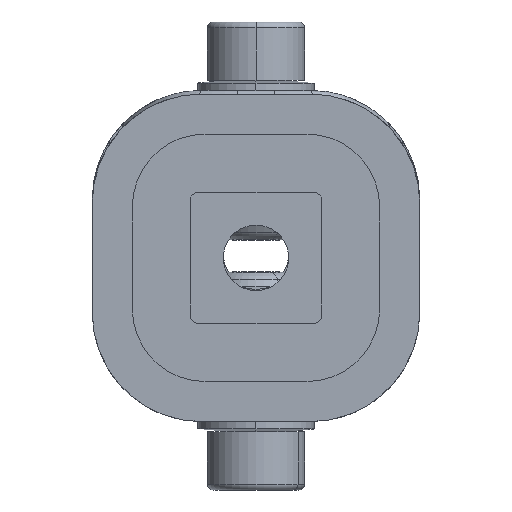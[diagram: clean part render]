
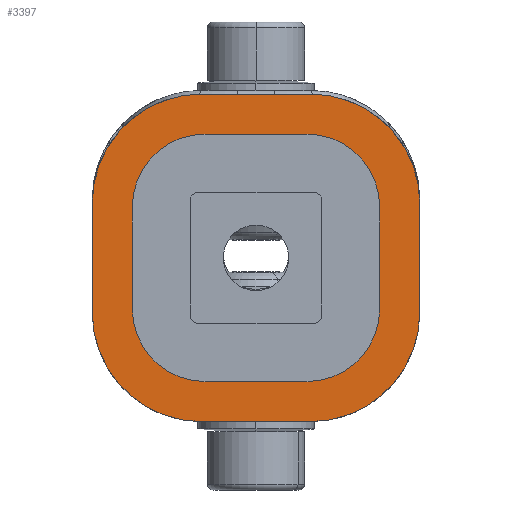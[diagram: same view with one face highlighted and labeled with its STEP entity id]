
A CAD part, front view. The second image highlights one B-rep face of the part: STEP entity #3397.
In plain terms, the highlighted planar face has unit normal (0, -1, 0) as drawn and (0, 0, -1) by its records, which use the part's own axes.
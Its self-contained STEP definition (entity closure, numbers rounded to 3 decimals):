
#681 = EDGE_CURVE ( 'NONE', #2337, #2221, #2602, .T. ) ;
#708 = EDGE_CURVE ( 'NONE', #4107, #4106, #2643, .T. ) ;
#709 = EDGE_CURVE ( 'NONE', #4107, #4055, #2637, .T. ) ;
#710 = EDGE_CURVE ( 'NONE', #4113, #4055, #2645, .T. ) ;
#711 = EDGE_CURVE ( 'NONE', #4113, #4057, #2647, .T. ) ;
#712 = EDGE_CURVE ( 'NONE', #4112, #4057, #2650, .T. ) ;
#713 = EDGE_CURVE ( 'NONE', #4112, #4059, #2648, .T. ) ;
#714 = EDGE_CURVE ( 'NONE', #4056, #4059, #2653, .T. ) ;
#715 = EDGE_CURVE ( 'NONE', #4056, #4106, #2651, .T. ) ;
#716 = EDGE_CURVE ( 'NONE', #2221, #4061, #2656, .T. ) ;
#717 = EDGE_CURVE ( 'NONE', #4060, #2337, #2657, .T. ) ;
#718 = EDGE_CURVE ( 'NONE', #4062, #4060, #2654, .T. ) ;
#719 = EDGE_CURVE ( 'NONE', #4058, #4062, #2658, .T. ) ;
#720 = EDGE_CURVE ( 'NONE', #4093, #4058, #2659, .T. ) ;
#721 = EDGE_CURVE ( 'NONE', #4094, #4093, #2661, .T. ) ;
#722 = EDGE_CURVE ( 'NONE', #4061, #4094, #2664, .T. ) ;
#813 = AXIS2_PLACEMENT_3D ( 'NONE', #3490, #3489, #3485 ) ;
#814 = AXIS2_PLACEMENT_3D ( 'NONE', #3303, #3227, #3300 ) ;
#815 = AXIS2_PLACEMENT_3D ( 'NONE', #3316, #3311, #3301 ) ;
#816 = AXIS2_PLACEMENT_3D ( 'NONE', #3302, #3143, #3146 ) ;
#817 = AXIS2_PLACEMENT_3D ( 'NONE', #3298, #3144, #3297 ) ;
#818 = AXIS2_PLACEMENT_3D ( 'NONE', #3153, #3149, #3151 ) ;
#819 = AXIS2_PLACEMENT_3D ( 'NONE', #3158, #3159, #3160 ) ;
#820 = AXIS2_PLACEMENT_3D ( 'NONE', #3147, #3204, #3286 ) ;
#879 = AXIS2_PLACEMENT_3D ( 'NONE', #1702, #1715, #1719 ) ;
#1702 = CARTESIAN_POINT ( 'NONE',  ( -7.5, 7.5, 0. ) ) ;
#1705 = PLANE ( 'NONE',  #879 ) ;
#1715 = DIRECTION ( 'NONE',  ( 0., 0., 1. ) ) ;
#1719 = DIRECTION ( 'NONE',  ( 1., 0., 0. ) ) ;
#1910 = CARTESIAN_POINT ( 'NONE',  ( 7.5, 22.5, 0. ) ) ;
#2018 = EDGE_LOOP ( 'NONE', ( #3772, #3811, #4022, #4023, #4024, #4025, #3989, #3990 ) ) ;
#2074 = EDGE_LOOP ( 'NONE', ( #4042, #3951, #4040, #3954, #3953, #3765, #3955, #3937 ) ) ;
#2221 = VERTEX_POINT ( 'NONE', #3192 ) ;
#2337 = VERTEX_POINT ( 'NONE', #1910 ) ;
#2602 = LINE ( 'NONE', #3482, #2605 ) ;
#2605 = VECTOR ( 'NONE', #3495, 1000. ) ;
#2637 = CIRCLE ( 'NONE', #813, 10. ) ;
#2643 = LINE ( 'NONE', #3509, #2646 ) ;
#2645 = LINE ( 'NONE', #3491, #2649 ) ;
#2646 = VECTOR ( 'NONE', #3500, 1000. ) ;
#2647 = CIRCLE ( 'NONE', #814, 10. ) ;
#2648 = CIRCLE ( 'NONE', #815, 10. ) ;
#2649 = VECTOR ( 'NONE', #3503, 1000. ) ;
#2650 = LINE ( 'NONE', #3483, #2652 ) ;
#2651 = CIRCLE ( 'NONE', #816, 10. ) ;
#2652 = VECTOR ( 'NONE', #3496, 1000. ) ;
#2653 = LINE ( 'NONE', #3314, #2655 ) ;
#2654 = LINE ( 'NONE', #3299, #2660 ) ;
#2655 = VECTOR ( 'NONE', #3218, 1000. ) ;
#2656 = CIRCLE ( 'NONE', #817, 15. ) ;
#2657 = CIRCLE ( 'NONE', #818, 15. ) ;
#2658 = CIRCLE ( 'NONE', #819, 15. ) ;
#2659 = LINE ( 'NONE', #3142, #2663 ) ;
#2660 = VECTOR ( 'NONE', #3145, 1000. ) ;
#2661 = CIRCLE ( 'NONE', #820, 15. ) ;
#2663 = VECTOR ( 'NONE', #3148, 1000. ) ;
#2664 = LINE ( 'NONE', #3141, #2666 ) ;
#2666 = VECTOR ( 'NONE', #3296, 1000. ) ;
#2790 = FACE_BOUND ( 'NONE', #2074, .T. ) ;
#2802 = FACE_OUTER_BOUND ( 'NONE', #2018, .T. ) ;
#3141 = CARTESIAN_POINT ( 'NONE',  ( -22.5, 7.5, 0. ) ) ;
#3142 = CARTESIAN_POINT ( 'NONE',  ( 7.5, -22.5, 0. ) ) ;
#3143 = DIRECTION ( 'NONE',  ( 0., 0., 1. ) ) ;
#3144 = DIRECTION ( 'NONE',  ( 0., 0., 1. ) ) ;
#3145 = DIRECTION ( 'NONE',  ( 0., 1., 0. ) ) ;
#3146 = DIRECTION ( 'NONE',  ( 1., 0., 0. ) ) ;
#3147 = CARTESIAN_POINT ( 'NONE',  ( -7.5, -7.5, 0. ) ) ;
#3148 = DIRECTION ( 'NONE',  ( 1., 0., 0. ) ) ;
#3149 = DIRECTION ( 'NONE',  ( 0., 0., 1. ) ) ;
#3151 = DIRECTION ( 'NONE',  ( -1., 0., 0. ) ) ;
#3153 = CARTESIAN_POINT ( 'NONE',  ( 7.5, 7.5, 0. ) ) ;
#3158 = CARTESIAN_POINT ( 'NONE',  ( 7.5, -7.5, 0. ) ) ;
#3159 = DIRECTION ( 'NONE',  ( 0., 0., 1. ) ) ;
#3160 = DIRECTION ( 'NONE',  ( -1., 0., 0. ) ) ;
#3192 = CARTESIAN_POINT ( 'NONE',  ( -7.5, 22.5, 0. ) ) ;
#3204 = DIRECTION ( 'NONE',  ( 0., 0., 1. ) ) ;
#3218 = DIRECTION ( 'NONE',  ( 0., -1., 0. ) ) ;
#3227 = DIRECTION ( 'NONE',  ( 0., 0., 1. ) ) ;
#3286 = DIRECTION ( 'NONE',  ( -1., 0., 0. ) ) ;
#3296 = DIRECTION ( 'NONE',  ( 0., -1., 0. ) ) ;
#3297 = DIRECTION ( 'NONE',  ( 1., 0., 0. ) ) ;
#3298 = CARTESIAN_POINT ( 'NONE',  ( -7.5, 7.5, 0. ) ) ;
#3299 = CARTESIAN_POINT ( 'NONE',  ( 22.5, 7.5, 0. ) ) ;
#3300 = DIRECTION ( 'NONE',  ( 1., 0., 0. ) ) ;
#3301 = DIRECTION ( 'NONE',  ( 1., 0., 0. ) ) ;
#3302 = CARTESIAN_POINT ( 'NONE',  ( 7., 7., 0. ) ) ;
#3303 = CARTESIAN_POINT ( 'NONE',  ( -7., -7., 0. ) ) ;
#3311 = DIRECTION ( 'NONE',  ( 0., 0., 1. ) ) ;
#3314 = CARTESIAN_POINT ( 'NONE',  ( 17., 17., 0. ) ) ;
#3316 = CARTESIAN_POINT ( 'NONE',  ( 7., -7., 0. ) ) ;
#3397 = ADVANCED_FACE ( 'NONE', ( #2790, #2802 ), #1705, .F. ) ;
#3482 = CARTESIAN_POINT ( 'NONE',  ( 7.5, 22.5, 0. ) ) ;
#3483 = CARTESIAN_POINT ( 'NONE',  ( 17., -17., 0. ) ) ;
#3485 = DIRECTION ( 'NONE',  ( 1., 0., 0. ) ) ;
#3489 = DIRECTION ( 'NONE',  ( 0., 0., 1. ) ) ;
#3490 = CARTESIAN_POINT ( 'NONE',  ( -7., 7., 0. ) ) ;
#3491 = CARTESIAN_POINT ( 'NONE',  ( -17., 17., 0. ) ) ;
#3495 = DIRECTION ( 'NONE',  ( -1., 0., 0. ) ) ;
#3496 = DIRECTION ( 'NONE',  ( -1., 0., 0. ) ) ;
#3500 = DIRECTION ( 'NONE',  ( 1., 0., 0. ) ) ;
#3503 = DIRECTION ( 'NONE',  ( 0., 1., 0. ) ) ;
#3509 = CARTESIAN_POINT ( 'NONE',  ( 17., 17., 0. ) ) ;
#3765 = ORIENTED_EDGE ( 'NONE', *, *, #713, .T. ) ;
#3772 = ORIENTED_EDGE ( 'NONE', *, *, #716, .F. ) ;
#3811 = ORIENTED_EDGE ( 'NONE', *, *, #681, .F. ) ;
#3937 = ORIENTED_EDGE ( 'NONE', *, *, #715, .T. ) ;
#3951 = ORIENTED_EDGE ( 'NONE', *, *, #709, .T. ) ;
#3953 = ORIENTED_EDGE ( 'NONE', *, *, #712, .F. ) ;
#3954 = ORIENTED_EDGE ( 'NONE', *, *, #711, .T. ) ;
#3955 = ORIENTED_EDGE ( 'NONE', *, *, #714, .F. ) ;
#3989 = ORIENTED_EDGE ( 'NONE', *, *, #721, .F. ) ;
#3990 = ORIENTED_EDGE ( 'NONE', *, *, #722, .F. ) ;
#4022 = ORIENTED_EDGE ( 'NONE', *, *, #717, .F. ) ;
#4023 = ORIENTED_EDGE ( 'NONE', *, *, #718, .F. ) ;
#4024 = ORIENTED_EDGE ( 'NONE', *, *, #719, .F. ) ;
#4025 = ORIENTED_EDGE ( 'NONE', *, *, #720, .F. ) ;
#4040 = ORIENTED_EDGE ( 'NONE', *, *, #710, .F. ) ;
#4042 = ORIENTED_EDGE ( 'NONE', *, *, #708, .F. ) ;
#4055 = VERTEX_POINT ( 'NONE', #4834 ) ;
#4056 = VERTEX_POINT ( 'NONE', #4838 ) ;
#4057 = VERTEX_POINT ( 'NONE', #4839 ) ;
#4058 = VERTEX_POINT ( 'NONE', #4831 ) ;
#4059 = VERTEX_POINT ( 'NONE', #4840 ) ;
#4060 = VERTEX_POINT ( 'NONE', #4837 ) ;
#4061 = VERTEX_POINT ( 'NONE', #4841 ) ;
#4062 = VERTEX_POINT ( 'NONE', #4833 ) ;
#4093 = VERTEX_POINT ( 'NONE', #4872 ) ;
#4094 = VERTEX_POINT ( 'NONE', #4873 ) ;
#4106 = VERTEX_POINT ( 'NONE', #4885 ) ;
#4107 = VERTEX_POINT ( 'NONE', #4886 ) ;
#4112 = VERTEX_POINT ( 'NONE', #4891 ) ;
#4113 = VERTEX_POINT ( 'NONE', #4892 ) ;
#4831 = CARTESIAN_POINT ( 'NONE',  ( 7.5, -22.5, 0. ) ) ;
#4833 = CARTESIAN_POINT ( 'NONE',  ( 22.5, -7.5, 0. ) ) ;
#4834 = CARTESIAN_POINT ( 'NONE',  ( -17., 7., 0. ) ) ;
#4837 = CARTESIAN_POINT ( 'NONE',  ( 22.5, 7.5, 0. ) ) ;
#4838 = CARTESIAN_POINT ( 'NONE',  ( 17., 7., 0. ) ) ;
#4839 = CARTESIAN_POINT ( 'NONE',  ( -7., -17., 0. ) ) ;
#4840 = CARTESIAN_POINT ( 'NONE',  ( 17., -7., 0. ) ) ;
#4841 = CARTESIAN_POINT ( 'NONE',  ( -22.5, 7.5, 0. ) ) ;
#4872 = CARTESIAN_POINT ( 'NONE',  ( -7.5, -22.5, 0. ) ) ;
#4873 = CARTESIAN_POINT ( 'NONE',  ( -22.5, -7.5, 0. ) ) ;
#4885 = CARTESIAN_POINT ( 'NONE',  ( 7., 17., 0. ) ) ;
#4886 = CARTESIAN_POINT ( 'NONE',  ( -7., 17., 0. ) ) ;
#4891 = CARTESIAN_POINT ( 'NONE',  ( 7., -17., 0. ) ) ;
#4892 = CARTESIAN_POINT ( 'NONE',  ( -17., -7., 0. ) ) ;
